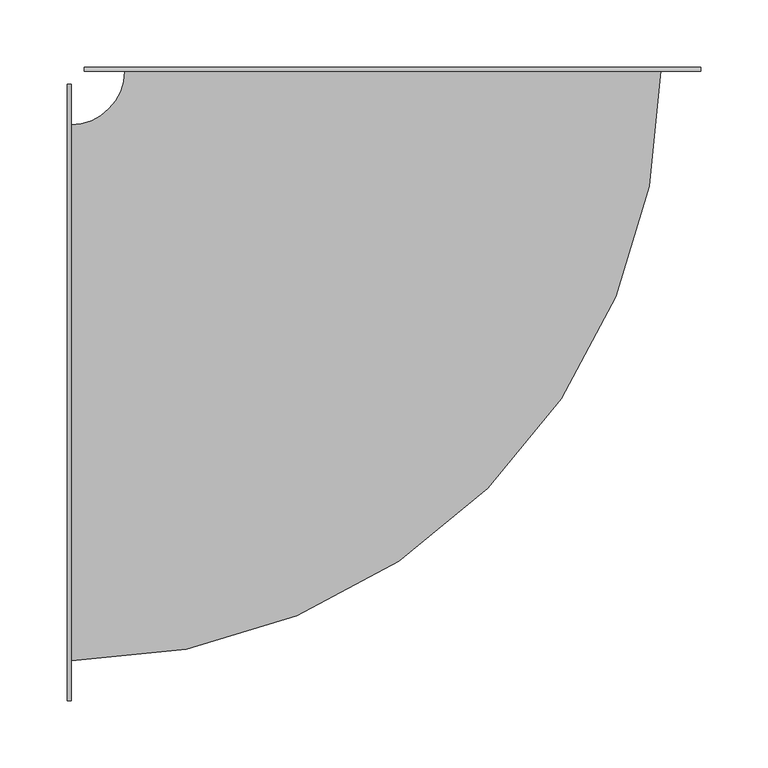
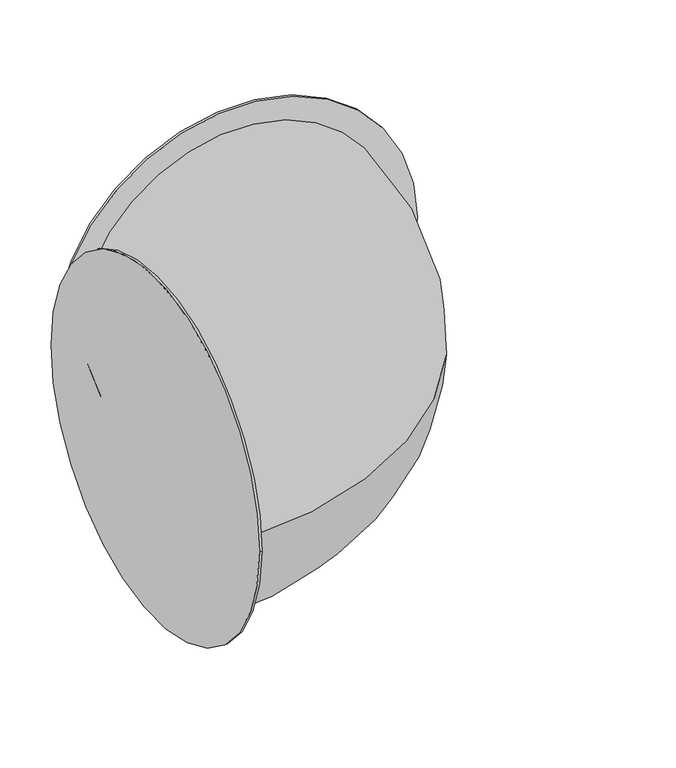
"""IFC4 building model written with IfcOpenShell, lengths in millimetres: duct fitting geometry, 圆形弯头 - 弧形 - 法兰 : 标准."""

import ifcopenshell
import ifcopenshell.guid

model = None  # the IFC model being written
_history = None  # IfcOwnerHistory: only IFC2X3 demands one
_inside = {}  # id of a spatial element -> (the spatial element, [elements in it])
_under = {}  # id of a project, library or spatial element -> (it, [spatial elements below it])
_declared = {}  # id of a project -> (the project, [libraries it declares])
_typed = {}  # id of a type object -> (the type object, [elements of that type])
_made_of = {}  # id of a material, layer set ... -> (it, [elements and type objects made of it])


def new_model(schema):
    """Start an empty IFC model of exactly this schema.

    Asked for "IFC4X3", IfcOpenShell would pick the latest addendum, in which some entities
    have other attributes; the version numbers below select the first issue.
    IFC2X3 requires an IfcOwnerHistory on every rooted entity: one is made here for all.
    """
    global model, _history
    if schema == "IFC4X3":
        model = ifcopenshell.file(schema_version=(4, 3, 0, 0))
    else:
        model = ifcopenshell.file(schema=schema)
    _inside.clear()
    _under.clear()
    _declared.clear()
    _typed.clear()
    _made_of.clear()
    _history = None
    if model.schema == "IFC2X3":
        org = make("IfcOrganization", Name="unknown")
        user = make(
            "IfcPersonAndOrganization",
            ThePerson=make("IfcPerson", FamilyName="unknown"),
            TheOrganization=org,
        )
        app = make(
            "IfcApplication",
            ApplicationDeveloper=org,
            Version="unknown",
            ApplicationFullName="unknown",
            ApplicationIdentifier="unknown",
        )
        _history = make(
            "IfcOwnerHistory",
            OwningUser=user,
            OwningApplication=app,
            ChangeAction="ADDED",
            CreationDate=0,
        )
    return model


def make(cls, **values):
    """One entity of the class cls with the attributes given. An attribute that is None is left unset."""
    return model.create_entity(
        cls, **{name: value for name, value in values.items() if value is not None}
    )


def rooted(cls, **values):
    """An entity with a GlobalId (a new one), such as an element, a storey or a relation."""
    return make(cls, GlobalId=ifcopenshell.guid.new(), OwnerHistory=_history, **values)


def si_unit(unit_type, name, prefix=None):
    """IfcSIUnit, for example si_unit("LENGTHUNIT", "METRE", prefix="MILLI")."""
    return make("IfcSIUnit", UnitType=unit_type, Prefix=prefix, Name=name)


def assignment(units):
    """IfcUnitAssignment: the units of a project."""
    return None if units is None else make("IfcUnitAssignment", Units=units)


def point(xyz):
    """IfcCartesianPoint."""
    return None if xyz is None else make("IfcCartesianPoint", Coordinates=xyz)


def direction(xyz):
    """IfcDirection."""
    return None if xyz is None else make("IfcDirection", DirectionRatios=xyz)


def frame(location, z_axis=None, x_axis=None):
    """IfcAxis2Placement3D, a coordinate frame: its origin and axes. An axis left out is left unset."""
    return make(
        "IfcAxis2Placement3D",
        Location=point(location),
        Axis=direction(z_axis),
        RefDirection=direction(x_axis),
    )


def origin():
    """The frame at (0, 0, 0) with its axes left unset."""
    return frame((0.0, 0.0, 0.0))


def place(relative_to, where):
    """IfcLocalPlacement: puts the frame where relative to a parent placement (None: the world)."""
    return make(
        "IfcLocalPlacement", PlacementRelTo=relative_to, RelativePlacement=where
    )


def context(
    kind, dimensions, precision=None, world=None, true_north=None, identifier=None
):
    """IfcGeometricRepresentationContext, for example the 3D "Model" context."""
    return make(
        "IfcGeometricRepresentationContext",
        ContextIdentifier=identifier,
        ContextType=kind,
        CoordinateSpaceDimension=dimensions,
        Precision=precision,
        WorldCoordinateSystem=world,
        TrueNorth=true_north,
    )


def project(units=None, contexts=None):
    """IfcProject with its units and contexts."""
    return rooted(
        "IfcProject",
        Name="project",
        RepresentationContexts=contexts,
        UnitsInContext=assignment(units),
    )


def spatial(cls, under=None, at=None, **own):
    """A site, building, storey or space (cls), placed at a placement, below another one or the project."""
    s = rooted(cls, ObjectPlacement=at, **own)
    if under is not None:
        _under.setdefault(under.id(), (under, []))[1].append(s)
    return s


def circle_curve(where, radius):
    """IfcCircle in the frame where."""
    return make("IfcCircle", Position=where, Radius=radius)


def ellipse_curve(where, semi_axis1, semi_axis2):
    """IfcEllipse in the frame where."""
    return make(
        "IfcEllipse", Position=where, SemiAxis1=semi_axis1, SemiAxis2=semi_axis2
    )


def trimmed(basis, trim1, trim2, sense, master):
    """IfcTrimmedCurve: the piece of a basis curve between two trims."""
    return make(
        "IfcTrimmedCurve",
        BasisCurve=basis,
        Trim1=trim1,
        Trim2=trim2,
        SenseAgreement=sense,
        MasterRepresentation=master,
    )


def shape(context_of_items, identifier, shape_type, items):
    """IfcShapeRepresentation: the items that make up one representation, for example the "Body"."""
    return make(
        "IfcShapeRepresentation",
        ContextOfItems=context_of_items,
        RepresentationIdentifier=identifier,
        RepresentationType=shape_type,
        Items=items,
    )


def source(mapping_origin, context_of_items, identifier, shape_type, items):
    """IfcRepresentationMap: a shape defined once, which mapped items show again and again."""
    return make(
        "IfcRepresentationMap",
        MappingOrigin=mapping_origin,
        MappedRepresentation=shape(context_of_items, identifier, shape_type, items),
    )


def transform(
    local_origin,
    x_axis=None,
    y_axis=None,
    z_axis=None,
    scale=None,
    scale2=None,
    scale3=None,
    uniform=True,
):
    """IfcCartesianTransformationOperator3D, or its non-uniform kind. x_axis, y_axis, z_axis: its Axis1, 2, 3."""
    if uniform:
        return make(
            "IfcCartesianTransformationOperator3D",
            Axis1=direction(x_axis),
            Axis2=direction(y_axis),
            LocalOrigin=point(local_origin),
            Scale=scale,
            Axis3=direction(z_axis),
        )
    return make(
        "IfcCartesianTransformationOperator3DnonUniform",
        Axis1=direction(x_axis),
        Axis2=direction(y_axis),
        LocalOrigin=point(local_origin),
        Scale=scale,
        Axis3=direction(z_axis),
        Scale2=scale2,
        Scale3=scale3,
    )


def mapped(mapping_source, mapping_target):
    """IfcMappedItem: shows the shape of a source again, moved by a transform."""
    return make(
        "IfcMappedItem", MappingSource=mapping_source, MappingTarget=mapping_target
    )


def made_of(thing, what):
    """Note that an element or type object is made of a material, layer set ...; save() writes the relation."""
    if what is not None:
        _made_of.setdefault(what.id(), (what, []))[1].append(thing)
    return thing


def element(
    cls,
    number,
    at=None,
    inside=None,
    cuts=None,
    type_object=None,
    material=None,
    context=None,
    identifier="Body",
    shape_type=None,
    held_by="IfcProductDefinitionShape",
    body=None,
    shapes=None,
    **own,
):
    """One element of the class cls, such as IfcWall. Its Tag is "e" and its number.

    at: its placement. inside: the storey or other place that contains it. cuts: it is an
    opening in that element (IfcRelVoidsElement). A single representation is given by context,
    identifier, shape_type and body (its items); several are given by shapes. held_by: the class
    of the entity that holds the representations. save() writes the other relations.
    """
    e = rooted(cls, Tag="e%d" % number, ObjectPlacement=at, **own)
    if body is not None:
        shapes = [shape(context, identifier, shape_type, body)]
    if shapes is not None:
        e.Representation = make(held_by, Representations=shapes)
    if inside is not None:
        _inside.setdefault(inside.id(), (inside, []))[1].append(e)
    if cuts is not None:
        rooted(
            "IfcRelVoidsElement", RelatingBuildingElement=cuts, RelatedOpeningElement=e
        )
    if type_object is not None:
        _typed.setdefault(type_object.id(), (type_object, []))[1].append(e)
    return made_of(e, material)


def aggregate(whole, parts):
    """IfcRelAggregates: a whole, such as a stair, and the parts it consists of."""
    return rooted("IfcRelAggregates", RelatingObject=whole, RelatedObjects=parts)


def save(model, path):
    """Write the relations noted so far, then the file.

    IfcRelAggregates (storeys below a building ...), IfcRelContainedInSpatialStructure (elements
    in a storey), IfcRelDefinesByType, IfcRelAssociatesMaterial and IfcRelDeclares: one each for
    every whole, place, type object, material and project.
    """
    for whole, parts in _under.values():
        aggregate(whole, parts)
    for where, things in _inside.values():
        rooted(
            "IfcRelContainedInSpatialStructure",
            RelatedElements=things,
            RelatingStructure=where,
        )
    for kind, things in _typed.values():
        rooted("IfcRelDefinesByType", RelatedObjects=things, RelatingType=kind)
    for what, things in _made_of.values():
        rooted("IfcRelAssociatesMaterial", RelatedObjects=things, RelatingMaterial=what)
    for by, libraries in _declared.values():
        rooted("IfcRelDeclares", RelatingContext=by, RelatedDefinitions=libraries)
    model.write(path)


def plane_surface(at):
    """IfcPlane: the flat surface through the origin of the frame at, square to its z axis."""
    return make("IfcPlane", Position=at)


def cylinder_surface(at, radius):
    """IfcCylindricalSurface: all points at the distance radius from the z axis of the frame at."""
    return make("IfcCylindricalSurface", Position=at, Radius=radius)


def revolved_surface(curve, axis_point, axis_direction):
    """IfcSurfaceOfRevolution: the curve turned about the line through axis_point along axis_direction."""
    return make(
        "IfcSurfaceOfRevolution",
        SweptCurve=make("IfcArbitraryOpenProfileDef", ProfileType="CURVE", Curve=curve),
        AxisPosition=make("IfcAxis1Placement", Location=point(axis_point), Axis=direction(axis_direction)),
    )


def advanced_brep(points, edges, surfaces, faces):
    """IfcAdvancedBrep: a solid bounded by faces that lie on surfaces and meet in shared edges.

    An edge is (start, end): straight between two places in points (the first is 0);
    or (start, end, curve); or (start, end, curve, False) where it runs against its curve.
    A face is (place in surfaces, loops), or (place, loops, False) where it looks against
    its surface's normal. A loop lists edges by number (the first is 1), with a minus sign
    where the edge is run from its end to its start. The first loop is the outer one.
    """
    corners = [point(p) for p in points]
    vertices = [make("IfcVertexPoint", VertexGeometry=c) for c in corners]
    made = []
    for start, end, *more in edges:
        made.append(
            make(
                "IfcEdgeCurve",
                EdgeStart=vertices[start],
                EdgeEnd=vertices[end],
                EdgeGeometry=more[0] if more else make("IfcPolyline", Points=[corners[start], corners[end]]),
                SameSense=more[1] if len(more) > 1 else True,
            )
        )
    hull = []
    for where, loops, *sense in faces:
        bounds = []
        for j, loop in enumerate(loops):
            ring = [make("IfcOrientedEdge", EdgeElement=made[abs(k) - 1], Orientation=k > 0) for k in loop]
            bounds.append(
                make(
                    "IfcFaceOuterBound" if j == 0 else "IfcFaceBound",
                    Bound=make("IfcEdgeLoop", EdgeList=ring),
                    Orientation=True,
                )
            )
        hull.append(make("IfcAdvancedFace", Bounds=bounds, FaceSurface=surfaces[where], SameSense=sense[0] if sense else True))
    return make("IfcAdvancedBrep", Outer=make("IfcClosedShell", CfsFaces=hull))


def duct_fitting_5e7f9d34(model_context):
    return source(origin(), model_context, "Body", "AdvancedBrep", [
        advanced_brep(
        [(-200.0, 240.0, 0.0), (-240.0, 200.0, 0.0), (-240.0, -200.0, 0.0), (200.0, 240.0, 0.0), (-243.0, -230.0, 0.0), (-243.0, 230.0, 0.0), (-240.0, -230.0, 0.0), (-240.0, 230.0, 0.0), (230.0, 240.0, 0.0), (-230.0, 240.0, 0.0), (230.0, 243.0, 0.0), (-230.0, 243.0, 0.0)],
        [
            (0, 1, circle_curve(frame((-240.0, 240.0, 0.0), z_axis=(0.0, 0.0, -1.0), x_axis=(0.0, -1.0, 0.0)), 40.0)),
            (1, 2, circle_curve(frame((-240.0, 0.0, 0.0), z_axis=(1.0, 0.0, 0.0), x_axis=(0.0, 1.0, 0.0)), 200.0)),
            (2, 3, circle_curve(frame((-240.0, 240.0, 0.0), z_axis=(0.0, 0.0, 1.0), x_axis=(0.0, -1.0, 0.0)), 440.0)),
            (3, 0, circle_curve(frame((0.0, 240.0, 0.0), z_axis=(0.0, -1.0, 0.0), x_axis=(-1.0, 0.0, 0.0)), 200.0)),
            (0, 3, circle_curve(frame((0.0, 240.0, 0.0), z_axis=(0.0, -1.0, 0.0), x_axis=(-1.0, 0.0, 0.0)), 200.0)),
            (2, 1, circle_curve(frame((-240.0, 0.0, 0.0), z_axis=(1.0, 0.0, 0.0), x_axis=(0.0, 1.0, 0.0)), 200.0)),
            (4, 5, circle_curve(frame((-243.0, 0.0, 0.0), z_axis=(-1.0, 0.0, 0.0), x_axis=(0.0, 1.0, 0.0)), 230.0)),
            (5, 4, circle_curve(frame((-243.0, 0.0, 0.0), z_axis=(-1.0, 0.0, 0.0), x_axis=(0.0, 1.0, 0.0)), 230.0)),
            (6, 7, circle_curve(frame((-240.0, 0.0, 0.0), z_axis=(1.0, 0.0, 0.0), x_axis=(0.0, 1.0, 0.0)), 230.0)),
            (7, 6, circle_curve(frame((-240.0, 0.0, 0.0), z_axis=(1.0, 0.0, 0.0), x_axis=(0.0, 1.0, 0.0)), 230.0)),
            (4, 6),
            (7, 5),
            (8, 9, circle_curve(frame((0.0, 240.0, 0.0), z_axis=(0.0, -1.0, 0.0), x_axis=(-1.0, 0.0, 0.0)), 230.0)),
            (9, 8, circle_curve(frame((0.0, 240.0, 0.0), z_axis=(0.0, -1.0, 0.0), x_axis=(-1.0, 0.0, 0.0)), 230.0)),
            (10, 11, circle_curve(frame((0.0, 243.0, 0.0), z_axis=(0.0, 1.0, 0.0), x_axis=(-1.0, 0.0, 0.0)), 230.0)),
            (11, 10, circle_curve(frame((0.0, 243.0, 0.0), z_axis=(0.0, 1.0, 0.0), x_axis=(-1.0, 0.0, 0.0)), 230.0)),
            (8, 10),
            (11, 9),
        ],
        [
            revolved_surface(trimmed(ellipse_curve(frame((-240.0, 0.0, 0.0), z_axis=(-1.0, 0.0, 0.0), x_axis=(0.0, 1.0, 0.0)), 200.0, 200.0), [point((-240.0, -200.0, 0.0))], [point((-240.0, 200.0, 0.0))], True, "CARTESIAN"), (-240.0, 240.0, 0.0), (0.0, 0.0, 1.0)),
            revolved_surface(trimmed(ellipse_curve(frame((-240.0, 0.0, 0.0), z_axis=(-1.0, 0.0, 0.0), x_axis=(0.0, 1.0, 0.0)), 200.0, 200.0), [point((-240.0, 200.0, 0.0))], [point((-240.0, -200.0, 0.0))], True, "CARTESIAN"), (-240.0, 240.0, 0.0), (0.0, 0.0, 1.0)),
            plane_surface(frame((-243.0, 0.0, 0.0), z_axis=(-1.0, 0.0, 0.0), x_axis=(0.0, 0.0, 1.0))),
            plane_surface(frame((-240.0, 0.0, 0.0), z_axis=(1.0, 0.0, 0.0), x_axis=(0.0, 0.0, 1.0))),
            cylinder_surface(frame((-243.0, 0.0, 0.0), z_axis=(-1.0, 0.0, 0.0), x_axis=(0.0, 1.0, 0.0)), 230.0),
            plane_surface(frame((0.0, 240.0, 0.0), z_axis=(0.0, -1.0, 0.0), x_axis=(0.0, 0.0, 1.0))),
            plane_surface(frame((0.0, 243.0, 0.0), z_axis=(0.0, 1.0, 0.0), x_axis=(0.0, 0.0, 1.0))),
            cylinder_surface(frame((0.0, 240.0, 0.0), z_axis=(0.0, -1.0, 0.0), x_axis=(-1.0, 0.0, 0.0)), 230.0),
        ],
        [
            (0, [[1, 2, 3, 4]]),
            (1, [[-1, 5, -3, 6]]),
            (2, [[7, 8]]),
            (3, [[9, 10], [-2, -6]]),
            (4, [[-7, 11, -10, 12]]),
            (4, [[-8, -12, -9, -11]]),
            (5, [[13, 14], [-4, -5]]),
            (6, [[15, 16]]),
            (7, [[-13, 17, -16, 18]]),
            (7, [[-14, -18, -15, -17]]),
        ],
    ),
    ])


if __name__ == "__main__":
    model = new_model("IFC4")
    model_context = context("Model", 3, world=origin())
    ifc_project = project(units=[si_unit("LENGTHUNIT", "METRE", prefix="MILLI")], contexts=[model_context])
    site = spatial("IfcSite", under=ifc_project)
    building = spatial("IfcBuilding", under=site)
    placement = place(None, origin())
    duct_fitting_shape = duct_fitting_5e7f9d34(model_context)
    element("IfcDuctFitting", 1, ObjectType="圆形弯头 - 弧形 - 法兰 : 标准", at=placement, inside=building, context=model_context, shape_type="MappedRepresentation", body=[
        mapped(duct_fitting_shape, transform((0.0, 0.0, 0.0), x_axis=(1.0, 0.0, 0.0), y_axis=(0.0, 1.0, 0.0), z_axis=(0.0, 0.0, 1.0))),
    ])
    save(model, "model.ifc")
